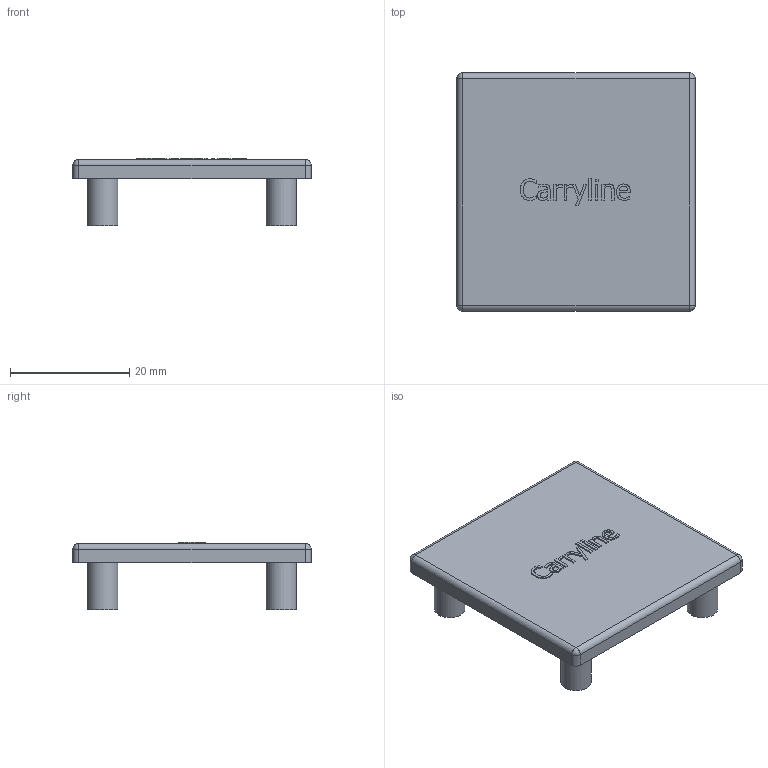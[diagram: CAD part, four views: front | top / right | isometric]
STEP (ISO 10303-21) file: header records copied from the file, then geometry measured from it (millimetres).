
FILE_DESCRIPTION((''),'2;1');
FILE_NAME('X:\Ritarkiv\STEP-Carryline Standarddelar\100-2010.stp','2009-11-09T07:48:37',('marcus'),(''),'Autodesk Inventor 2010','Autodesk Inventor 2010','');
FILE_SCHEMA(('AUTOMOTIVE_DESIGN { 1 0 10303 214 1 1 1 1 }'));
Length unit declared in the file: millimetre
Products named in the file (1): 100-2010
Bounding box: 40 x 40 x 11.3 mm (x, y, z)
Volume: 5733.3 mm3; surface area: 4163.9 mm2
Topology: 1 solids, 1 shells, 154 faces, 400 edges, 260 vertices
Faces by surface type: plane 80, bspline 58, cylinder 12, sphere 4
Full cylindrical faces by diameter (mm): 5.1 x4
Entity records: 5116 total; most frequent: CARTESIAN_POINT 1735, ORIENTED_EDGE 784, DIRECTION 494, EDGE_CURVE 392, VERTEX_POINT 260, VECTOR 252, LINE 252, EDGE_LOOP 174
